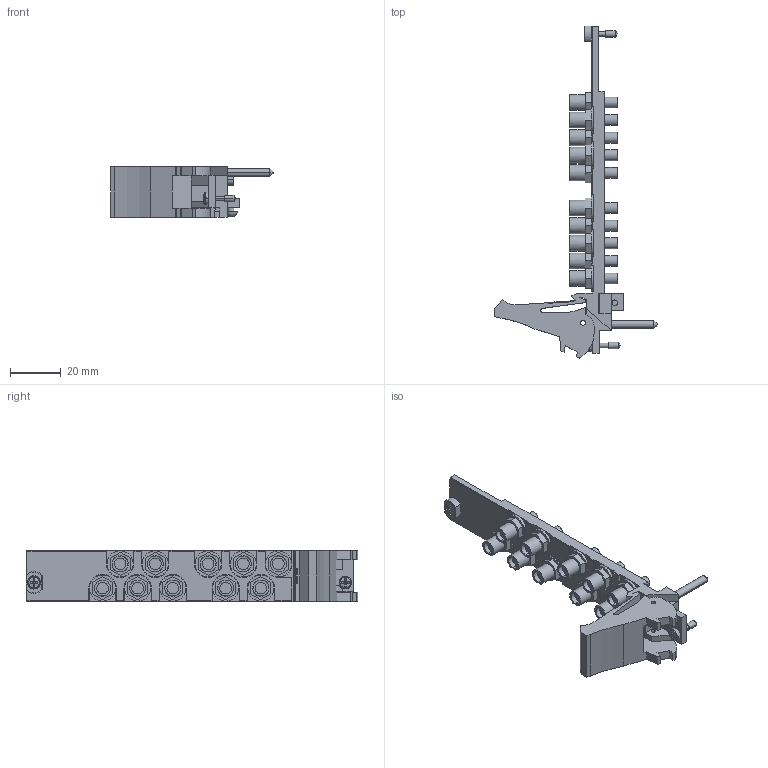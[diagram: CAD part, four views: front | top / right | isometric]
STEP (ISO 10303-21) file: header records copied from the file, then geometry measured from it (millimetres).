
FILE_DESCRIPTION((''),'2;1');
FILE_NAME('CU_PXI-2546','2009-11-10T',('jjorden'),(''),'PRO/ENGINEER BY PARAMETRIC TECHNOLOGY CORPORATION, 2006080','PRO/ENGINEER BY PARAMETRIC TECHNOLOGY CORPORATION, 2006080','');
FILE_SCHEMA(('CONFIG_CONTROL_DESIGN'));
Length unit declared in the file: inch
Products named in the file (1): CU_PXI-2546
Bounding box: 63.73 x 130.43 x 20.02 mm (x, y, z)
Volume: 20588.4 mm3; surface area: 18466.5 mm2
Topology: 1 solids, 1 shells, 868 faces, 2245 edges, 1475 vertices
Faces by surface type: plane 525, cylinder 280, cone 37, sphere 12, torus 8, bspline 6
Entity records: 27484 total; most frequent: CARTESIAN_POINT 5632, DIRECTION 4610, ORIENTED_EDGE 4470, EDGE_CURVE 2235, AXIS2_PLACEMENT_3D 1564, VERTEX_POINT 1494, VECTOR 1482, LINE 1482
